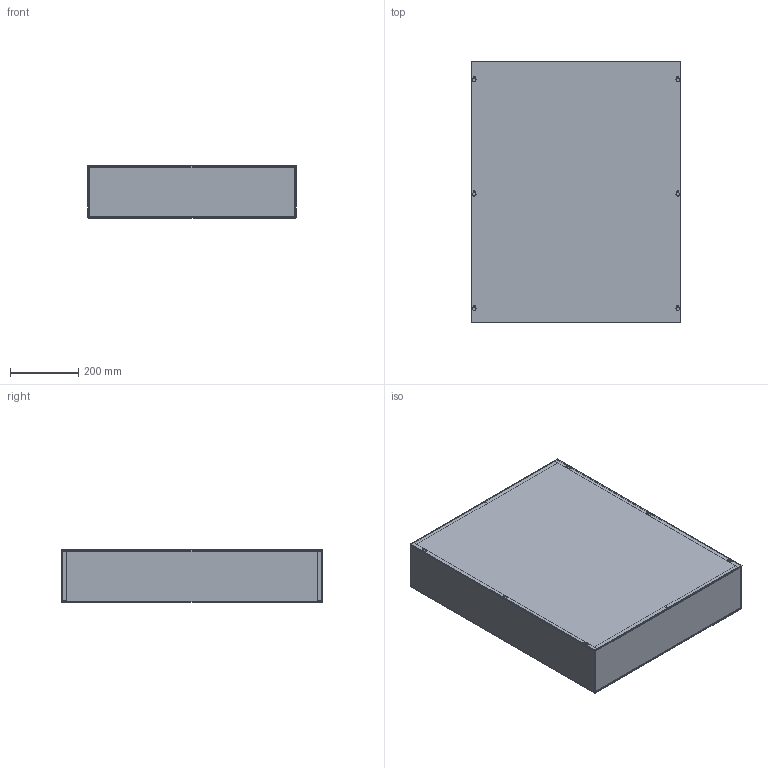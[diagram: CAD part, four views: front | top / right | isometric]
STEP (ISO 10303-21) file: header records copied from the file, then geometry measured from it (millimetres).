
FILE_DESCRIPTION (( 'STEP AP203' ), '1' );
FILE_NAME ('asg30x24x6nk.STEP', '2011-02-15T20:18:23', ( 'Hoffman User' ), ( 'Hoffman Enclosures' ), 'SwSTEP 2.0', 'SolidWorks 2009', '' );
FILE_SCHEMA (( 'CONFIG_CONTROL_DESIGN' ));
Length unit declared in the file: inch
Products named in the file (5): asg30x24x6nk; 42304083; 89054646_WELDMENT; 89055229; 43413004
Assembly tree (5 placements, depth 3):
  asg30x24x6nk
    89054646_WELDMENT
      43413004  x2
      89055229
    42304083
Bounding box: 609.6 x 762 x 153.8 mm (x, y, z)
Volume: 2249203.6 mm3; surface area: 2797402.6 mm2
Topology: 4 solids, 4 shells, 209 faces, 494 edges, 296 vertices
Faces by surface type: plane 111, cylinder 76, torus 10, bspline 8, cone 4
Entity records: 5849 total; most frequent: CARTESIAN_POINT 1282, DIRECTION 886, ORIENTED_EDGE 796, EDGE_CURVE 398, AXIS2_PLACEMENT_3D 326, VERTEX_POINT 242, VECTOR 234, LINE 234
